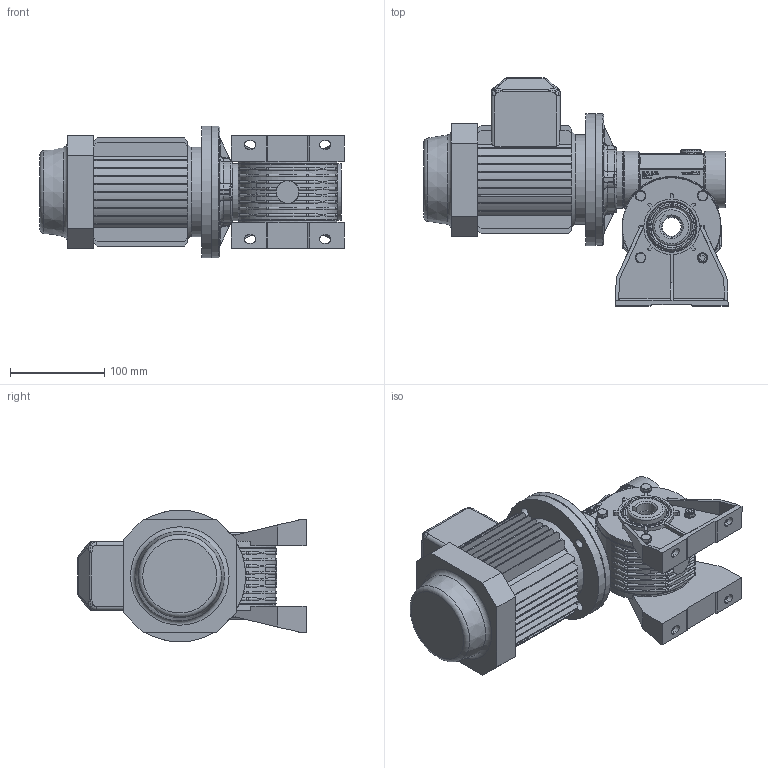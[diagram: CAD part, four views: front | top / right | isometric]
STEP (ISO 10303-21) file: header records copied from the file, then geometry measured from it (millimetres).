
FILE_DESCRIPTION((''),'2;1');
FILE_NAME('Y:\Archivi Inventor\Prog_01\GRAND_10\Figurini\mrv10 VECCHIO\pam63 b5\MRV10 PAM63B5 P2.stp','2014-01-15T08:55:57',('tech3'),(''),'Autodesk Inventor 2013','Autodesk Inventor 2013','');
FILE_SCHEMA(('AUTOMOTIVE_DESIGN { 1 0 10303 214 1 1 1 1 }'));
Length unit declared in the file: millimetre
Products named in the file (16): mrv10; V10_PRIMARIO; carcassa mrv10 fig; corona MRV10-f22 fig; RCA_40x7; 40_52_8; Tappo 3_8 GAS_esagn_incsst; Guarnizione 3_8 GAS; DIN EN ISO 4762 M6 x 20; 0101029; DIN EN 24017 M6 x 16; 0101010; 0101028; 0101006; DIN EN ISO 4762 M6 x 16; motori B5 63
Assembly tree (28 placements, depth 3):
  mrv10
    V10_PRIMARIO
      carcassa mrv10 fig
      corona MRV10-f22 fig
      RCA_40x7
      40_52_8  x2
      Tappo 3_8 GAS_esagn_incsst
      Guarnizione 3_8 GAS
      DIN EN ISO 4762 M6 x 20
      0101029  x2
      DIN EN 24017 M6 x 16  x8
      0101010  x2
      0101028
    0101006
    DIN EN ISO 4762 M6 x 16  x4
    motori B5 63
Bounding box: 322.95 x 242 x 140 mm (x, y, z)
Volume: 3027206.2 mm3; surface area: 454449 mm2
Topology: 27 solids, 31 shells, 1970 faces, 4992 edges, 3191 vertices
Faces by surface type: plane 1079, cylinder 426, bspline 210, torus 123, cone 114, sphere 18
Full cylindrical faces by diameter (mm): 2 x2, 4.917 x12, 6 x17, 6.5 x20, 8 x1, 8.88 x8, 10 x9, 11 x9, 14.95 x1, 16.3 x1, 16.5 x1, 19.981 x2, 22 x2, 24 x1, 35 x1, 35.2 x1, 39.4 x2, 40 x11, 42.5 x1, 42.881 x2, 47.232 x2, 52 x4, 60 x3, 61 x1, 80 x2, 82 x6, 95 x3, 103.5 x2, 104 x2, 105 x1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
Entity records: 56085 total; most frequent: CARTESIAN_POINT 16433, ORIENTED_EDGE 8250, DIRECTION 7480, EDGE_CURVE 4125, VERTEX_POINT 2733, AXIS2_PLACEMENT_3D 2549, VECTOR 2382, LINE 2382
